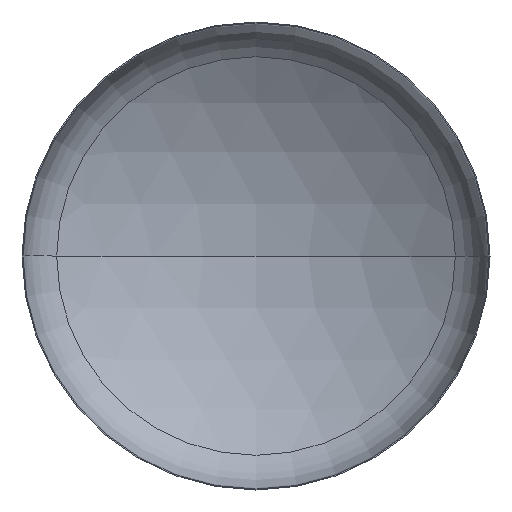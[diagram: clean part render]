
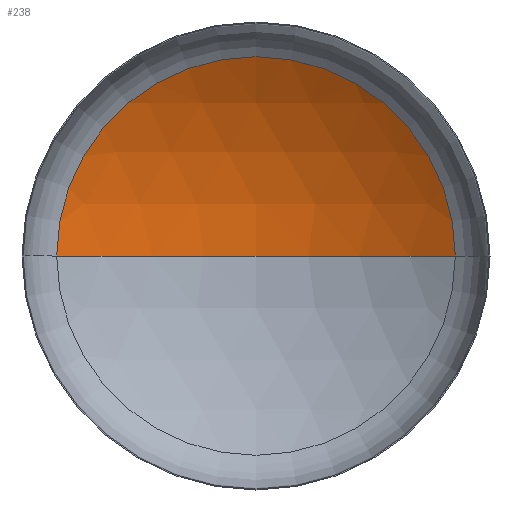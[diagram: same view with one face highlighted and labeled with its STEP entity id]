
A CAD part, front view. The second image highlights one B-rep face of the part: STEP entity #238.
In plain terms, the highlighted spherical face has radius 1920 mm.
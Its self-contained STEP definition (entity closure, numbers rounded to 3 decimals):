
#10 = DIRECTION ( 'NONE',  ( 0., 0., -1. ) ) ;
#12 = AXIS2_PLACEMENT_3D ( 'NONE', #129, #307, #396 ) ;
#13 = AXIS2_PLACEMENT_3D ( 'NONE', #380, #242, #244 ) ;
#18 = ORIENTED_EDGE ( 'NONE', *, *, #346, .T. ) ;
#23 = EDGE_LOOP ( 'NONE', ( #59, #18, #121 ) ) ;
#34 = AXIS2_PLACEMENT_3D ( 'NONE', #308, #10, #187 ) ;
#40 = VERTEX_POINT ( 'NONE', #290 ) ;
#59 = ORIENTED_EDGE ( 'NONE', *, *, #388, .F. ) ;
#105 = VERTEX_POINT ( 'NONE', #303 ) ;
#121 = ORIENTED_EDGE ( 'NONE', *, *, #344, .T. ) ;
#126 = VERTEX_POINT ( 'NONE', #206 ) ;
#129 = CARTESIAN_POINT ( 'NONE',  ( 0., -1292.202, 0. ) ) ;
#187 = DIRECTION ( 'NONE',  ( -1., 0., 0. ) ) ;
#206 = CARTESIAN_POINT ( 'NONE',  ( 1021.935, 333.235, 0. ) ) ;
#222 = AXIS2_PLACEMENT_3D ( 'NONE', #247, #404, #266 ) ;
#238 = ADVANCED_FACE ( 'NONE', ( #262 ), #319, .F. ) ;
#242 = DIRECTION ( 'NONE',  ( 0., -1., 0. ) ) ;
#244 = DIRECTION ( 'NONE',  ( 1., 0., 0. ) ) ;
#247 = CARTESIAN_POINT ( 'NONE',  ( 0., -1292.202, 0. ) ) ;
#262 = FACE_OUTER_BOUND ( 'NONE', #23, .T. ) ;
#266 = DIRECTION ( 'NONE',  ( 1., 0., 0. ) ) ;
#290 = CARTESIAN_POINT ( 'NONE',  ( -1021.935, 333.235, 0. ) ) ;
#295 = CIRCLE ( 'NONE', #12, 1920. ) ;
#303 = CARTESIAN_POINT ( 'NONE',  ( 0., 627.798, 0. ) ) ;
#307 = DIRECTION ( 'NONE',  ( 0., 0., -1. ) ) ;
#308 = CARTESIAN_POINT ( 'NONE',  ( 0., -1292.202, 0. ) ) ;
#319 = SPHERICAL_SURFACE ( 'NONE', #34, 1920. ) ;
#344 = EDGE_CURVE ( 'NONE', #126, #40, #363, .T. ) ;
#346 = EDGE_CURVE ( 'NONE', #105, #126, #295, .T. ) ;
#347 = CIRCLE ( 'NONE', #222, 1920. ) ;
#363 = CIRCLE ( 'NONE', #13, 1021.935 ) ;
#380 = CARTESIAN_POINT ( 'NONE',  ( 0., 333.235, 0. ) ) ;
#388 = EDGE_CURVE ( 'NONE', #105, #40, #347, .T. ) ;
#396 = DIRECTION ( 'NONE',  ( -1., 0., 0. ) ) ;
#404 = DIRECTION ( 'NONE',  ( 0., 0., 1. ) ) ;
